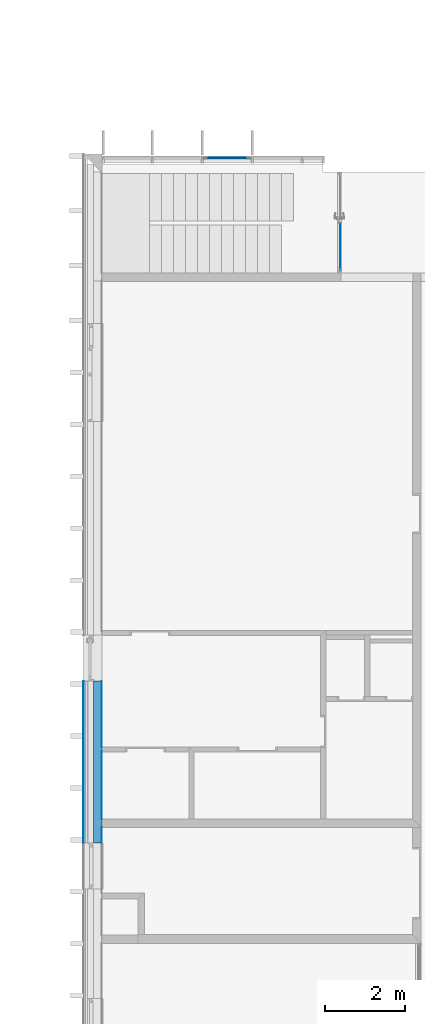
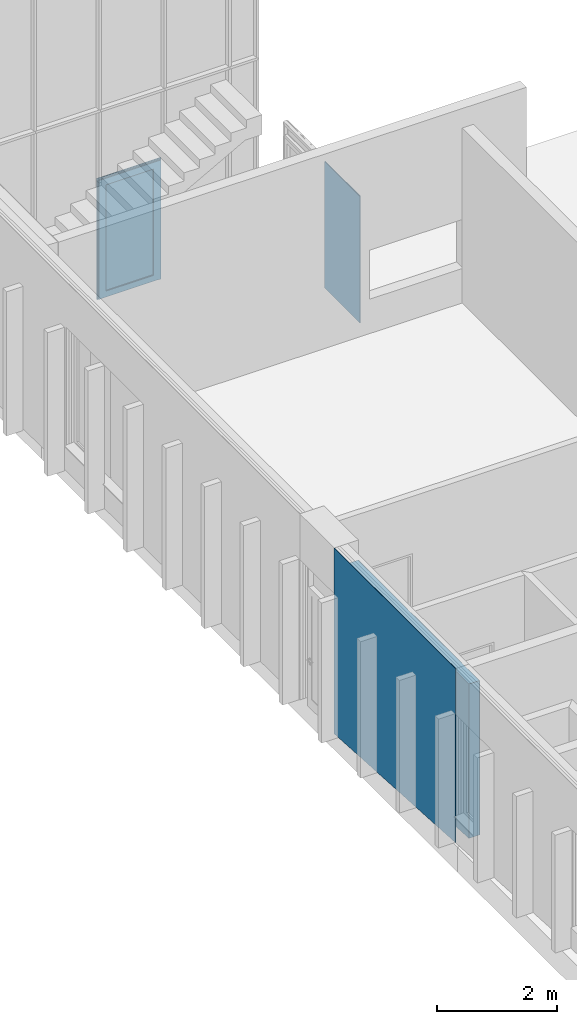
# One storey, part 38 of 65: 7 building element parts, 5 elements without a shape of their own.
"""IFC2X3 building model written with IfcOpenShell, lengths in millimetres."""

from ifc_helpers import new_model, entity, si_unit, converted_unit, derived_unit, money_unit, direction, frame, origin_with_axes, place, context, subcontext, project, spatial, polyline, outline, extrude, boolean, faceted_brep, material, type_object, element, aggregate, save


model = new_model("IFC2X3")

# Units and contexts
model_context = context("Model", 3, precision=0.01, world=origin_with_axes(), true_north=direction((0.0, 1.0)))
body_context = subcontext(model_context, "Body", "Model", "MODEL_VIEW")
ifc_project = project(units=[si_unit("LENGTHUNIT", "METRE", prefix="MILLI"), si_unit("AREAUNIT", "SQUARE_METRE"), si_unit("VOLUMEUNIT", "CUBIC_METRE"), converted_unit("PLANEANGLEUNIT", "DEGREE", entity("IfcPlaneAngleMeasure", 0.0174532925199), si_unit("PLANEANGLEUNIT", "RADIAN"), dimensions=[0, 0, 0, 0, 0, 0, 0]), si_unit("SOLIDANGLEUNIT", "STERADIAN"), money_unit("EUR"), converted_unit("TIMEUNIT", "Year", entity("IfcTimeMeasure", 31556926.0), si_unit("TIMEUNIT", "SECOND"), dimensions=[0, 0, 1, 0, 0, 0, 0]), si_unit("MASSUNIT", "GRAM", prefix="KILO"), si_unit("THERMODYNAMICTEMPERATUREUNIT", "DEGREE_CELSIUS"), si_unit("LUMINOUSINTENSITYUNIT", "LUMEN"), si_unit("ENERGYUNIT", "JOULE", prefix="MEGA"), derived_unit("THERMALCONDUCTANCEUNIT", [(si_unit("POWERUNIT", "WATT"), 1), (si_unit("LENGTHUNIT", "METRE"), -1), (si_unit("THERMODYNAMICTEMPERATUREUNIT", "KELVIN"), -1)]), derived_unit("SPECIFICHEATCAPACITYUNIT", [(si_unit("ENERGYUNIT", "JOULE"), 1), (si_unit("MASSUNIT", "GRAM", prefix="KILO"), -1), (si_unit("THERMODYNAMICTEMPERATUREUNIT", "KELVIN"), -1)]), derived_unit("MASSDENSITYUNIT", [(si_unit("MASSUNIT", "GRAM", prefix="KILO"), 1), (si_unit("VOLUMEUNIT", "CUBIC_METRE"), -1)])], contexts=[model_context])

# Site, building, storey
site_placement = place(None, origin_with_axes())
site = spatial("IfcSite", under=ifc_project, at=site_placement, Name="Puškini 31, Narva", CompositionType="ELEMENT")
building_placement = place(site_placement, origin_with_axes())
building = spatial("IfcBuilding", under=site, at=building_placement, Name="Narva Riigigümnaasium", CompositionType="ELEMENT")
storey_placement = place(building_placement, frame((0.0, 0.0, -1320.0), z_axis=(0.0, 0.0, 1.0), x_axis=(1.0, 0.0, 0.0)))
storey = spatial("IfcBuildingStorey", under=building, at=storey_placement, Name="1.korrus -1.32", CompositionType="ELEMENT", Elevation=-1320.0)

# Curtain wall, plate, building element parts
curtain_wall_type = type_object("IfcCurtainWallType", Name="Curtain Wall Type", PredefinedType="NOTDEFINED")
curtain_wall_1_placement = place(storey_placement, frame((28354.9542923, 194209.397521, 0.0), z_axis=(0.0, 0.0, 1.0), x_axis=(1.0, 0.0, 0.0)))
curtain_wall_1 = element("IfcCurtainWall", 1, at=curtain_wall_1_placement, inside=storey, type_object=curtain_wall_type, Name="G-SKLF-07")
plate_type = type_object("IfcPlateType", Name="89 x 269 x 20", PredefinedType="CURTAIN_PANEL")
plate_placement = place(curtain_wall_1_placement, frame((-0.00577298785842, -1424.73355284, 1433.33333333), z_axis=(0.0, 0.0, 1.0), x_axis=(-4.05197718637e-06, -0.999999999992, 0.0)))
plate = element("IfcPlate", 2, at=plate_placement, type_object=plate_type, Name="G-SKLF-07-klaas", ObjectType="CURTAIN_PANEL")
aggregate(curtain_wall_1, [plate])
ifc_material_1 = material(Name="VKR-05_Klaas")
building_element_part_1_placement = place(plate_placement, origin_with_axes())
building_element_part_1 = element("IfcBuildingElementPart", 3, at=building_element_part_1_placement, material=ifc_material_1, Name="VKR-05_Klaas", context=body_context, shape_type="Brep", body=[
    faceted_brep([(-632.967110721, 17.0, 1205.50194311), (543.499084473, 17.0, 1205.50194311), (543.499084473, 22.0, 1205.50194311), (-632.967110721, 22.0, 1205.50194311), (-632.967110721, 17.0, -1372.16860978), (543.499084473, 17.0, -1372.16860978), (543.499084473, 22.0, -1372.16860978), (-632.967110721, 22.0, -1372.16860978)], [[[0, 1, 2, 3]], [[0, 4, 5, 1]], [[1, 5, 6, 2]], [[3, 2, 6, 7]], [[4, 0, 3, 7]], [[5, 4, 7, 6]]]),
    faceted_brep([(-632.967110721, 28.0, 1205.50194311), (543.499084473, 28.0, 1205.50194311), (543.499084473, 33.0, 1205.50194311), (-632.967110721, 33.0, 1205.50194311), (-632.967110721, 28.0, -1372.16860978), (543.499084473, 28.0, -1372.16860978), (543.499084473, 33.0, -1372.16860978), (-632.967110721, 33.0, -1372.16860978)], [[[0, 1, 2, 3]], [[0, 4, 5, 1]], [[1, 5, 6, 2]], [[3, 2, 6, 7]], [[4, 0, 3, 7]], [[5, 4, 7, 6]]]),
])
ifc_material_2 = material(Name="VKR-06_Õhkvahe")
building_element_part_2_placement = place(plate_placement, origin_with_axes())
building_element_part_2 = element("IfcBuildingElementPart", 4, at=building_element_part_2_placement, material=ifc_material_2, Name="VKR-06_Õhkvahe", context=body_context, shape_type="Brep", body=[
    faceted_brep([(-632.967110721, 22.0, 1205.50194311), (543.499084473, 22.0, 1205.50194311), (543.499084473, 28.0, 1205.50194311), (-632.967110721, 28.0, 1205.50194311), (-632.967110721, 22.0, -1372.16860978), (543.499084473, 22.0, -1372.16860978), (543.499084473, 28.0, -1372.16860978), (-632.967110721, 28.0, -1372.16860978)], [[[0, 1, 2, 3]], [[0, 4, 5, 1]], [[1, 5, 6, 2]], [[3, 2, 6, 7]], [[4, 0, 3, 7]], [[5, 4, 7, 6]]]),
])
aggregate(plate, [building_element_part_1, building_element_part_2])

# Wall, building element parts
wall_type = type_object("IfcWallType", Name="G-VS-01 468", PredefinedType="NOTDEFINED")
wall_placement = place(storey_placement, frame((22399.9999985, 177910.149991, -800.0), z_axis=(0.0, 0.0, 1.0), x_axis=(0.0, 1.0, 0.0)))
wall = element("IfcWall", 5, at=wall_placement, inside=storey, type_object=wall_type, Name="Välissein")
ifc_material_3 = material(Name="Salto-siseviimistlus-seinad")
building_element_part_3_placement = place(wall_placement, origin_with_axes())
building_element_part_3 = element("IfcBuildingElementPart", 6, at=building_element_part_3_placement, material=ifc_material_3, Name="Salto-siseviimistlus-seinad", context=body_context, shape_type="CSG", body=[
    boolean("DIFFERENCE", boolean("DIFFERENCE", boolean("DIFFERENCE", boolean("DIFFERENCE", boolean("DIFFERENCE", boolean("DIFFERENCE", boolean("DIFFERENCE", extrude(outline(polyline([(0.0, -10.0), (4050.0, -10.0), (4050.0, 0.0), (0.0, 0.0), (0.0, -10.0)])), origin_with_axes(), (0.0, 0.0, 1.0), 4760.0), faceted_brep([(2389.85001883, 0.0, 1070.6765254), (4050.0, 0.0, 974.423502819), (4050.0, 0.0, 0.0), (0.0, 0.0, 0.0), (0.0, 0.0, 1209.23646904), (389.850018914, 0.0, 1186.63354575), (389.850018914, 0.0, 4355.0), (0.0, 0.0, 4355.0), (0.0, 0.0, 4760.0), (4050.0, 0.0, 4760.0), (4050.0, 0.0, 4355.0), (2389.85001883, 0.0, 4355.0), (589.850018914, 0.0, 1175.03784371), (2289.85001883, 0.0, 1076.47437642), (2289.85001883, 0.0, 4355.0), (589.850018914, 0.0, 4355.0), (2389.85001883, -10.0, 1070.6765254), (4050.0, -10.0, 974.423502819), (4050.0, -10.0, 0.0), (0.0, -10.0, 0.0), (0.0, -10.0, 1209.23646904), (389.850018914, -10.0, 1186.63354575), (389.850018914, -10.0, 4355.0), (0.0, -10.0, 4355.0), (0.0, -10.0, 4760.0), (4050.0, -10.0, 4760.0), (4050.0, -10.0, 4355.0), (2389.85001883, -10.0, 4355.0), (589.850018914, -10.0, 1175.03784371), (2289.85001883, -10.0, 1076.47437642), (2289.85001883, -10.0, 4355.0), (589.850018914, -10.0, 4355.0)], [[[0, 1, 2, 3, 4, 5, 6, 7, 8, 9, 10, 11], [12, 13, 14, 15]], [[16, 17, 1, 0]], [[1, 17, 18, 2]], [[18, 19, 3, 2]], [[20, 4, 3, 19]], [[20, 21, 5, 4]], [[21, 22, 6, 5]], [[22, 23, 7, 6]], [[7, 23, 24, 8]], [[8, 24, 25, 9]], [[26, 10, 9, 25]], [[10, 26, 27, 11]], [[27, 16, 0, 11]], [[28, 29, 13, 12]], [[29, 30, 14, 13]], [[30, 31, 15, 14]], [[31, 28, 12, 15]], [[16, 27, 26, 25, 24, 23, 22, 21, 20, 19, 18, 17], [28, 31, 30, 29]]])), faceted_brep([(4050.0, 199.999989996, 974.423502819), (4050.0, 0.0, 974.423502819), (4050.0, 0.0, 0.0), (4050.0, 200.0, 0.0), (2389.85001883, 0.0, 1070.6765254), (0.0, 199.999987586, 1209.23646904), (0.0, 0.0, 1209.23646904), (389.850018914, 0.0, 1186.63354575), (589.850018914, 0.0, 1175.03784371), (2289.85001883, 0.0, 1076.47437642), (0.0, 0.0, 0.0), (0.0, 200.0, 0.0)], [[[0, 1, 2, 3]], [[4, 1, 0, 5, 6, 7, 8, 9]], [[7, 6, 10, 2, 1, 4, 9, 8]], [[2, 10, 11, 3]], [[5, 0, 3, 11]], [[6, 5, 11, 10]]])), faceted_brep([(4050.0, 0.0, 4355.0), (4050.0, 0.0, 4760.0), (0.0, 0.0, 4760.0), (0.0, 0.0, 4355.0), (4050.0, 199.999955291, 4355.0), (4050.0, 200.0, 4760.0), (0.0, 200.0, 4760.0), (0.0, 199.999955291, 4355.0)], [[[0, 1, 2, 3]], [[0, 4, 5, 1]], [[6, 2, 1, 5]], [[7, 3, 2, 6]], [[4, 0, 3, 7]], [[4, 7, 6, 5]]])), faceted_brep([(4050.0, 350.0, 974.423502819), (4050.0, 199.999989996, 974.423502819), (4050.0, 200.0, 0.0), (4050.0, 350.0, 0.0), (0.0, 199.999987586, 1209.23646904), (0.0, 350.0, 1209.23646904), (0.0, 200.0, 0.0), (0.0, 350.0, 0.0)], [[[0, 1, 2, 3]], [[4, 1, 0, 5]], [[1, 4, 6, 2]], [[2, 6, 7, 3]], [[5, 0, 3, 7]], [[4, 5, 7, 6]]])), faceted_brep([(4050.0, 400.0, 974.423502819), (4050.0, 350.0, 974.423502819), (4050.0, 350.0, 0.0), (4050.0, 400.0, 0.0), (0.0, 350.0, 1209.23646904), (0.0, 400.0, 1209.23646904), (0.0, 350.0, 0.0), (0.0, 400.0, 0.0)], [[[0, 1, 2, 3]], [[4, 1, 0, 5]], [[1, 4, 6, 2]], [[2, 6, 7, 3]], [[5, 0, 3, 7]], [[4, 5, 7, 6]]])), faceted_brep([(4050.0, 450.0, 974.423502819), (4050.0, 400.0, 974.423502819), (4050.0, 400.0, 0.0), (4050.0, 450.0, 0.0), (0.0, 400.0, 1209.23646904), (0.0, 450.0, 1209.23646904), (0.0, 400.0, 0.0), (0.0, 450.0, 0.0)], [[[0, 1, 2, 3]], [[4, 1, 0, 5]], [[1, 4, 6, 2]], [[2, 6, 7, 3]], [[5, 0, 3, 7]], [[4, 5, 7, 6]]])), faceted_brep([(4050.0, 458.0, 974.423502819), (4050.0, 450.0, 974.423502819), (4050.0, 450.0, 0.0), (4050.0, 458.0, 0.0), (0.0, 450.0, 1209.23646904), (0.0, 458.0, 1209.23646904), (0.0, 450.0, 0.0), (0.0, 458.0, 0.0)], [[[0, 1, 2, 3]], [[4, 1, 0, 5]], [[1, 4, 6, 2]], [[2, 6, 7, 3]], [[5, 0, 3, 7]], [[4, 5, 7, 6]]])),
])
ifc_material_4 = material(Name="Betoon element")
building_element_part_4_placement = place(wall_placement, origin_with_axes())
building_element_part_4 = element("IfcBuildingElementPart", 7, at=building_element_part_4_placement, material=ifc_material_4, Name="Betoon element", context=body_context, shape_type="CSG", body=[
    boolean("DIFFERENCE", boolean("DIFFERENCE", boolean("DIFFERENCE", boolean("DIFFERENCE", boolean("DIFFERENCE", boolean("DIFFERENCE", boolean("DIFFERENCE", extrude(outline(polyline([(0.0, 0.0), (4050.0, 0.0), (4050.0, 200.0), (0.0, 200.0), (0.0, 0.0)])), origin_with_axes(), (0.0, 0.0, 1.0), 4760.0), faceted_brep([(2389.85001883, 0.0, 1070.6765254), (4050.0, 0.0, 974.423502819), (4050.0, 0.0, 0.0), (0.0, 0.0, 0.0), (0.0, 0.0, 1209.23646904), (389.850018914, 0.0, 1186.63354575), (389.850018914, 0.0, 4355.0), (0.0, 0.0, 4355.0), (0.0, 0.0, 4760.0), (4050.0, 0.0, 4760.0), (4050.0, 0.0, 4355.0), (2389.85001883, 0.0, 4355.0), (589.850018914, 0.0, 1175.03784371), (2289.85001883, 0.0, 1076.47437642), (2289.85001883, 0.0, 4355.0), (589.850018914, 0.0, 4355.0), (2389.85001883, -10.0, 1070.6765254), (4050.0, -10.0, 974.423502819), (4050.0, -10.0, 0.0), (0.0, -10.0, 0.0), (0.0, -10.0, 1209.23646904), (389.850018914, -10.0, 1186.63354575), (389.850018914, -10.0, 4355.0), (0.0, -10.0, 4355.0), (0.0, -10.0, 4760.0), (4050.0, -10.0, 4760.0), (4050.0, -10.0, 4355.0), (2389.85001883, -10.0, 4355.0), (589.850018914, -10.0, 1175.03784371), (2289.85001883, -10.0, 1076.47437642), (2289.85001883, -10.0, 4355.0), (589.850018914, -10.0, 4355.0)], [[[0, 1, 2, 3, 4, 5, 6, 7, 8, 9, 10, 11], [12, 13, 14, 15]], [[16, 17, 1, 0]], [[1, 17, 18, 2]], [[18, 19, 3, 2]], [[20, 4, 3, 19]], [[20, 21, 5, 4]], [[21, 22, 6, 5]], [[22, 23, 7, 6]], [[7, 23, 24, 8]], [[8, 24, 25, 9]], [[26, 10, 9, 25]], [[10, 26, 27, 11]], [[27, 16, 0, 11]], [[28, 29, 13, 12]], [[29, 30, 14, 13]], [[30, 31, 15, 14]], [[31, 28, 12, 15]], [[16, 27, 26, 25, 24, 23, 22, 21, 20, 19, 18, 17], [28, 31, 30, 29]]])), faceted_brep([(4050.0, 199.999989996, 974.423502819), (4050.0, 0.0, 974.423502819), (4050.0, 0.0, 0.0), (4050.0, 200.0, 0.0), (2389.85001883, 0.0, 1070.6765254), (0.0, 199.999987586, 1209.23646904), (0.0, 0.0, 1209.23646904), (389.850018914, 0.0, 1186.63354575), (589.850018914, 0.0, 1175.03784371), (2289.85001883, 0.0, 1076.47437642), (0.0, 0.0, 0.0), (0.0, 200.0, 0.0)], [[[0, 1, 2, 3]], [[4, 1, 0, 5, 6, 7, 8, 9]], [[7, 6, 10, 2, 1, 4, 9, 8]], [[2, 10, 11, 3]], [[5, 0, 3, 11]], [[6, 5, 11, 10]]])), faceted_brep([(4050.0, 0.0, 4355.0), (4050.0, 0.0, 4760.0), (0.0, 0.0, 4760.0), (0.0, 0.0, 4355.0), (4050.0, 199.999955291, 4355.0), (4050.0, 200.0, 4760.0), (0.0, 200.0, 4760.0), (0.0, 199.999955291, 4355.0)], [[[0, 1, 2, 3]], [[0, 4, 5, 1]], [[6, 2, 1, 5]], [[7, 3, 2, 6]], [[4, 0, 3, 7]], [[4, 7, 6, 5]]])), faceted_brep([(4050.0, 350.0, 974.423502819), (4050.0, 199.999989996, 974.423502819), (4050.0, 200.0, 0.0), (4050.0, 350.0, 0.0), (0.0, 199.999987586, 1209.23646904), (0.0, 350.0, 1209.23646904), (0.0, 200.0, 0.0), (0.0, 350.0, 0.0)], [[[0, 1, 2, 3]], [[4, 1, 0, 5]], [[1, 4, 6, 2]], [[2, 6, 7, 3]], [[5, 0, 3, 7]], [[4, 5, 7, 6]]])), faceted_brep([(4050.0, 400.0, 974.423502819), (4050.0, 350.0, 974.423502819), (4050.0, 350.0, 0.0), (4050.0, 400.0, 0.0), (0.0, 350.0, 1209.23646904), (0.0, 400.0, 1209.23646904), (0.0, 350.0, 0.0), (0.0, 400.0, 0.0)], [[[0, 1, 2, 3]], [[4, 1, 0, 5]], [[1, 4, 6, 2]], [[2, 6, 7, 3]], [[5, 0, 3, 7]], [[4, 5, 7, 6]]])), faceted_brep([(4050.0, 450.0, 974.423502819), (4050.0, 400.0, 974.423502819), (4050.0, 400.0, 0.0), (4050.0, 450.0, 0.0), (0.0, 400.0, 1209.23646904), (0.0, 450.0, 1209.23646904), (0.0, 400.0, 0.0), (0.0, 450.0, 0.0)], [[[0, 1, 2, 3]], [[4, 1, 0, 5]], [[1, 4, 6, 2]], [[2, 6, 7, 3]], [[5, 0, 3, 7]], [[4, 5, 7, 6]]])), faceted_brep([(4050.0, 458.0, 974.423502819), (4050.0, 450.0, 974.423502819), (4050.0, 450.0, 0.0), (4050.0, 458.0, 0.0), (0.0, 450.0, 1209.23646904), (0.0, 458.0, 1209.23646904), (0.0, 450.0, 0.0), (0.0, 458.0, 0.0)], [[[0, 1, 2, 3]], [[4, 1, 0, 5]], [[1, 4, 6, 2]], [[2, 6, 7, 3]], [[5, 0, 3, 7]], [[4, 5, 7, 6]]])),
])
ifc_material_5 = material(Name="fassaadiplaat")
building_element_part_5_placement = place(wall_placement, origin_with_axes())
building_element_part_5 = element("IfcBuildingElementPart", 8, at=building_element_part_5_placement, material=ifc_material_5, Name="fassaadiplaat", context=body_context, shape_type="CSG", body=[
    boolean("DIFFERENCE", boolean("DIFFERENCE", boolean("DIFFERENCE", boolean("DIFFERENCE", boolean("DIFFERENCE", boolean("DIFFERENCE", boolean("DIFFERENCE", extrude(outline(polyline([(0.0, 450.0), (4050.0, 450.0), (4050.0, 458.0), (0.0, 458.0), (0.0, 450.0)])), origin_with_axes(), (0.0, 0.0, 1.0), 4760.0), faceted_brep([(2389.85001883, 0.0, 1070.6765254), (4050.0, 0.0, 974.423502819), (4050.0, 0.0, 0.0), (0.0, 0.0, 0.0), (0.0, 0.0, 1209.23646904), (389.850018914, 0.0, 1186.63354575), (389.850018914, 0.0, 4355.0), (0.0, 0.0, 4355.0), (0.0, 0.0, 4760.0), (4050.0, 0.0, 4760.0), (4050.0, 0.0, 4355.0), (2389.85001883, 0.0, 4355.0), (589.850018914, 0.0, 1175.03784371), (2289.85001883, 0.0, 1076.47437642), (2289.85001883, 0.0, 4355.0), (589.850018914, 0.0, 4355.0), (2389.85001883, -10.0, 1070.6765254), (4050.0, -10.0, 974.423502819), (4050.0, -10.0, 0.0), (0.0, -10.0, 0.0), (0.0, -10.0, 1209.23646904), (389.850018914, -10.0, 1186.63354575), (389.850018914, -10.0, 4355.0), (0.0, -10.0, 4355.0), (0.0, -10.0, 4760.0), (4050.0, -10.0, 4760.0), (4050.0, -10.0, 4355.0), (2389.85001883, -10.0, 4355.0), (589.850018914, -10.0, 1175.03784371), (2289.85001883, -10.0, 1076.47437642), (2289.85001883, -10.0, 4355.0), (589.850018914, -10.0, 4355.0)], [[[0, 1, 2, 3, 4, 5, 6, 7, 8, 9, 10, 11], [12, 13, 14, 15]], [[16, 17, 1, 0]], [[1, 17, 18, 2]], [[18, 19, 3, 2]], [[20, 4, 3, 19]], [[20, 21, 5, 4]], [[21, 22, 6, 5]], [[22, 23, 7, 6]], [[7, 23, 24, 8]], [[8, 24, 25, 9]], [[26, 10, 9, 25]], [[10, 26, 27, 11]], [[27, 16, 0, 11]], [[28, 29, 13, 12]], [[29, 30, 14, 13]], [[30, 31, 15, 14]], [[31, 28, 12, 15]], [[16, 27, 26, 25, 24, 23, 22, 21, 20, 19, 18, 17], [28, 31, 30, 29]]])), faceted_brep([(4050.0, 199.999989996, 974.423502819), (4050.0, 0.0, 974.423502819), (4050.0, 0.0, 0.0), (4050.0, 200.0, 0.0), (2389.85001883, 0.0, 1070.6765254), (0.0, 199.999987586, 1209.23646904), (0.0, 0.0, 1209.23646904), (389.850018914, 0.0, 1186.63354575), (589.850018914, 0.0, 1175.03784371), (2289.85001883, 0.0, 1076.47437642), (0.0, 0.0, 0.0), (0.0, 200.0, 0.0)], [[[0, 1, 2, 3]], [[4, 1, 0, 5, 6, 7, 8, 9]], [[7, 6, 10, 2, 1, 4, 9, 8]], [[2, 10, 11, 3]], [[5, 0, 3, 11]], [[6, 5, 11, 10]]])), faceted_brep([(4050.0, 0.0, 4355.0), (4050.0, 0.0, 4760.0), (0.0, 0.0, 4760.0), (0.0, 0.0, 4355.0), (4050.0, 199.999955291, 4355.0), (4050.0, 200.0, 4760.0), (0.0, 200.0, 4760.0), (0.0, 199.999955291, 4355.0)], [[[0, 1, 2, 3]], [[0, 4, 5, 1]], [[6, 2, 1, 5]], [[7, 3, 2, 6]], [[4, 0, 3, 7]], [[4, 7, 6, 5]]])), faceted_brep([(4050.0, 350.0, 974.423502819), (4050.0, 199.999989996, 974.423502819), (4050.0, 200.0, 0.0), (4050.0, 350.0, 0.0), (0.0, 199.999987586, 1209.23646904), (0.0, 350.0, 1209.23646904), (0.0, 200.0, 0.0), (0.0, 350.0, 0.0)], [[[0, 1, 2, 3]], [[4, 1, 0, 5]], [[1, 4, 6, 2]], [[2, 6, 7, 3]], [[5, 0, 3, 7]], [[4, 5, 7, 6]]])), faceted_brep([(4050.0, 400.0, 974.423502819), (4050.0, 350.0, 974.423502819), (4050.0, 350.0, 0.0), (4050.0, 400.0, 0.0), (0.0, 350.0, 1209.23646904), (0.0, 400.0, 1209.23646904), (0.0, 350.0, 0.0), (0.0, 400.0, 0.0)], [[[0, 1, 2, 3]], [[4, 1, 0, 5]], [[1, 4, 6, 2]], [[2, 6, 7, 3]], [[5, 0, 3, 7]], [[4, 5, 7, 6]]])), faceted_brep([(4050.0, 450.0, 974.423502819), (4050.0, 400.0, 974.423502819), (4050.0, 400.0, 0.0), (4050.0, 450.0, 0.0), (0.0, 400.0, 1209.23646904), (0.0, 450.0, 1209.23646904), (0.0, 400.0, 0.0), (0.0, 450.0, 0.0)], [[[0, 1, 2, 3]], [[4, 1, 0, 5]], [[1, 4, 6, 2]], [[2, 6, 7, 3]], [[5, 0, 3, 7]], [[4, 5, 7, 6]]])), faceted_brep([(4050.0, 458.0, 974.423502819), (4050.0, 450.0, 974.423502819), (4050.0, 450.0, 0.0), (4050.0, 458.0, 0.0), (0.0, 450.0, 1209.23646904), (0.0, 458.0, 1209.23646904), (0.0, 450.0, 0.0), (0.0, 458.0, 0.0)], [[[0, 1, 2, 3]], [[4, 1, 0, 5]], [[1, 4, 6, 2]], [[2, 6, 7, 3]], [[5, 0, 3, 7]], [[4, 5, 7, 6]]])),
])
aggregate(wall, [building_element_part_3, building_element_part_4, building_element_part_5])

# Curtain wall, door, building element parts
curtain_wall_2_placement = place(storey_placement, frame((23044.9999985, 195055.000005, -0.000275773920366), z_axis=(0.0, 0.0, 1.0), x_axis=(1.0, 0.0, 0.0)))
curtain_wall_2 = element("IfcCurtainWall", 9, at=curtain_wall_2_placement, inside=storey, type_object=curtain_wall_type, Name="G-KLF-04")
door_style = type_object("IfcDoorStyle", Name="15 x 2465 x 20", ConstructionType="NOTDEFINED", OperationType="NOTDEFINED", ParameterTakesPrecedence=False, Sizeable=False)
door_placement = place(curtain_wall_2_placement, frame((2379.99999812, 0.0, 1500.00018015), z_axis=(0.0, 0.0, 1.0), x_axis=(-1.0, 0.0, 0.0)))
door = element("IfcDoor", 10, at=door_placement, type_object=door_style, Name="G-KLF-04-VU-01", ObjectType="DOOR")
aggregate(curtain_wall_2, [door])
ifc_material_6 = material(Name="ET-04_Alumiinium")
building_element_part_6_placement = place(door_placement, origin_with_axes())
building_element_part_6 = element("IfcBuildingElementPart", 11, at=building_element_part_6_placement, material=ifc_material_6, Name="ET-04_Alumiinium", context=body_context, shape_type="Brep", body=[
    faceted_brep([(-720.000000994, 35.0, -1450.0001741), (-720.000000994, 30.0, -1450.0001741), (-720.000000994, 30.0, 975.000119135), (-720.000000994, 35.0, 975.000119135), (-675.000000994, 35.0, -1450.0001741), (-675.000000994, 30.0, -1450.0001741), (-675.000000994, 30.0, 930.000119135), (-675.000000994, 35.0, 930.000119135)], [[[0, 1, 2, 3]], [[4, 5, 1, 0]], [[1, 5, 6, 2]], [[3, 2, 6, 7]], [[0, 3, 7, 4]], [[7, 6, 5, 4]]]),
    faceted_brep([(479.9999951, 35.0, 975.000119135), (479.9999951, 30.0, 975.000119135), (434.9999951, 30.0, 930.000119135), (434.9999951, 35.0, 930.000119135), (-720.000000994, 35.0, 975.000119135), (-720.000000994, 30.0, 975.000119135), (-675.000000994, 30.0, 930.000119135), (-675.000000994, 35.0, 930.000119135)], [[[0, 1, 2, 3]], [[4, 5, 1, 0]], [[1, 5, 6, 2]], [[3, 2, 6, 7]], [[0, 3, 7, 4]], [[7, 6, 5, 4]]]),
    faceted_brep([(479.9999951, 35.0, -1450.0001741), (479.9999951, 30.0, -1450.0001741), (434.9999951, 30.0, -1450.0001741), (434.9999951, 35.0, -1450.0001741), (479.9999951, 35.0, 975.000119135), (479.9999951, 30.0, 975.000119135), (434.9999951, 30.0, 930.000119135), (434.9999951, 35.0, 930.000119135)], [[[0, 1, 2, 3]], [[4, 5, 1, 0]], [[1, 5, 6, 2]], [[3, 2, 6, 7]], [[0, 3, 7, 4]], [[7, 6, 5, 4]]]),
    faceted_brep([(-720.000000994, 30.0, -1450.0001741), (-720.000000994, -20.0, -1450.0001741), (-720.000000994, -20.0, 975.000119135), (-720.000000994, 30.0, 975.000119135), (-700.000000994, 30.0, -1450.0001741), (-700.000000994, -20.0, -1450.0001741), (-700.000000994, -20.0, 955.000119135), (-700.000000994, 30.0, 955.000119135)], [[[0, 1, 2, 3]], [[4, 5, 1, 0]], [[1, 5, 6, 2]], [[3, 2, 6, 7]], [[0, 3, 7, 4]], [[7, 6, 5, 4]]]),
    faceted_brep([(479.9999951, 30.0, 975.000119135), (479.9999951, -20.0, 975.000119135), (459.9999951, -20.0, 955.000119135), (459.9999951, 30.0, 955.000119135), (-720.000000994, 30.0, 975.000119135), (-720.000000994, -20.0, 975.000119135), (-700.000000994, -20.0, 955.000119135), (-700.000000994, 30.0, 955.000119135)], [[[0, 1, 2, 3]], [[4, 5, 1, 0]], [[1, 5, 6, 2]], [[3, 2, 6, 7]], [[0, 3, 7, 4]], [[7, 6, 5, 4]]]),
    faceted_brep([(479.9999951, 30.0, -1450.0001741), (479.9999951, -20.0, -1450.0001741), (459.9999951, -20.0, -1450.0001741), (459.9999951, 30.0, -1450.0001741), (479.9999951, 30.0, 975.000119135), (479.9999951, -20.0, 975.000119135), (459.9999951, -20.0, 955.000119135), (459.9999951, 30.0, 955.000119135)], [[[0, 1, 2, 3]], [[4, 5, 1, 0]], [[1, 5, 6, 2]], [[3, 2, 6, 7]], [[0, 3, 7, 4]], [[7, 6, 5, 4]]]),
    faceted_brep([(495.000004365, 9.99999999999, -1465.00018337), (495.000004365, -9.99999999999, -1465.00018337), (-735.000010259, -9.99999999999, -1465.00018337), (-735.000010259, 9.99999999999, -1465.00018337), (479.9999951, 9.99999999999, -1450.0001741), (479.9999951, -9.99999999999, -1450.0001741), (-720.000000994, -9.99999999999, -1450.0001741), (-720.000000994, 9.99999999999, -1450.0001741)], [[[0, 1, 2, 3]], [[4, 5, 1, 0]], [[1, 5, 6, 2]], [[3, 2, 6, 7]], [[0, 3, 7, 4]], [[7, 6, 5, 4]]]),
    faceted_brep([(-735.000010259, 9.99999999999, -1465.00018337), (-735.000010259, -9.99999999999, -1465.00018337), (-735.000010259, -9.99999999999, 1000.00012216), (-735.000010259, 9.99999999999, 1000.00012216), (-720.000000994, 9.99999999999, -1450.0001741), (-720.000000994, -9.99999999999, -1450.0001741), (-720.000000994, -9.99999999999, 975.000119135), (-720.000000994, 9.99999999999, 975.000119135)], [[[0, 1, 2, 3]], [[4, 5, 1, 0]], [[1, 5, 6, 2]], [[3, 2, 6, 7]], [[0, 3, 7, 4]], [[7, 6, 5, 4]]]),
    faceted_brep([(-735.000010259, 9.99999999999, 1000.00012216), (-735.000010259, -9.99999999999, 1000.00012216), (495.000004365, -9.99999999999, 1000.00012216), (495.000004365, 9.99999999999, 1000.00012216), (-720.000000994, 9.99999999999, 975.000119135), (-720.000000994, -9.99999999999, 975.000119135), (479.9999951, -9.99999999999, 975.000119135), (479.9999951, 9.99999999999, 975.000119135)], [[[0, 1, 2, 3]], [[4, 5, 1, 0]], [[1, 5, 6, 2]], [[3, 2, 6, 7]], [[0, 3, 7, 4]], [[7, 6, 5, 4]]]),
    faceted_brep([(495.000004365, 9.99999999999, 1000.00012216), (495.000004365, -9.99999999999, 1000.00012216), (495.000004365, -9.99999999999, -1465.00018337), (495.000004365, 9.99999999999, -1465.00018337), (479.9999951, 9.99999999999, 975.000119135), (479.9999951, -9.99999999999, 975.000119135), (479.9999951, -9.99999999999, -1450.0001741), (479.9999951, 9.99999999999, -1450.0001741)], [[[0, 1, 2, 3]], [[4, 5, 1, 0]], [[1, 5, 6, 2]], [[3, 2, 6, 7]], [[0, 3, 7, 4]], [[7, 6, 5, 4]]]),
    faceted_brep([(339.9999951, 30.0, -1330.0001741), (339.9999951, -20.0, -1330.0001741), (339.9999951, -20.0, 835.000119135), (339.9999951, 30.0, 835.000119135), (459.9999951, 30.0, -1450.0001741), (459.9999951, -20.0, -1450.0001741), (459.9999951, -20.0, 955.000119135), (459.9999951, 30.0, 955.000119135)], [[[0, 1, 2, 3]], [[4, 5, 1, 0]], [[1, 5, 6, 2]], [[3, 2, 6, 7]], [[0, 3, 7, 4]], [[7, 6, 5, 4]]]),
    faceted_brep([(-700.000000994, 30.0, -1450.0001741), (-700.000000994, -20.0, -1450.0001741), (-700.000000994, -20.0, 955.000119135), (-700.000000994, 30.0, 955.000119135), (-580.000000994, 30.0, -1330.0001741), (-580.000000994, -20.0, -1330.0001741), (-580.000000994, -20.0, 835.000119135), (-580.000000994, 30.0, 835.000119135)], [[[0, 1, 2, 3]], [[4, 5, 1, 0]], [[1, 5, 6, 2]], [[3, 2, 6, 7]], [[0, 3, 7, 4]], [[7, 6, 5, 4]]]),
    faceted_brep([(-700.000000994, 30.0, -1450.0001741), (-700.000000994, -20.0, -1450.0001741), (-580.000000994, -20.0, -1330.0001741), (-580.000000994, 30.0, -1330.0001741), (459.9999951, 30.0, -1450.0001741), (459.9999951, -20.0, -1450.0001741), (339.9999951, -20.0, -1330.0001741), (339.9999951, 30.0, -1330.0001741)], [[[0, 1, 2, 3]], [[4, 5, 1, 0]], [[1, 5, 6, 2]], [[3, 2, 6, 7]], [[0, 3, 7, 4]], [[7, 6, 5, 4]]]),
    faceted_brep([(459.9999951, 30.0, 955.000119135), (459.9999951, -20.0, 955.000119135), (339.9999951, -20.0, 835.000119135), (339.9999951, 30.0, 835.000119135), (-700.000000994, 30.0, 955.000119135), (-700.000000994, -20.0, 955.000119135), (-580.000000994, -20.0, 835.000119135), (-580.000000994, 30.0, 835.000119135)], [[[0, 1, 2, 3]], [[4, 5, 1, 0]], [[1, 5, 6, 2]], [[3, 2, 6, 7]], [[0, 3, 7, 4]], [[7, 6, 5, 4]]]),
])
building_element_part_7_placement = place(door_placement, origin_with_axes())
building_element_part_7 = element("IfcBuildingElementPart", 12, at=building_element_part_7_placement, material=ifc_material_1, Name="VKR-05_Klaas", context=body_context, shape_type="Brep", body=[
    faceted_brep([(339.9999951, 6.0, -1330.0001741), (339.9999951, -9.99999999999, -1330.0001741), (-580.000000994, -9.99999999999, -1330.0001741), (-580.000000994, 6.0, -1330.0001741), (339.9999951, 6.0, 835.000119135), (339.9999951, -9.99999999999, 835.000119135), (-580.000000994, -9.99999999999, 835.000119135), (-580.000000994, 6.0, 835.000119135)], [[[0, 1, 2, 3]], [[4, 5, 1, 0]], [[1, 5, 6, 2]], [[3, 2, 6, 7]], [[0, 3, 7, 4]], [[7, 6, 5, 4]]]),
])
aggregate(door, [building_element_part_6, building_element_part_7])

save(model, "model.ifc")
